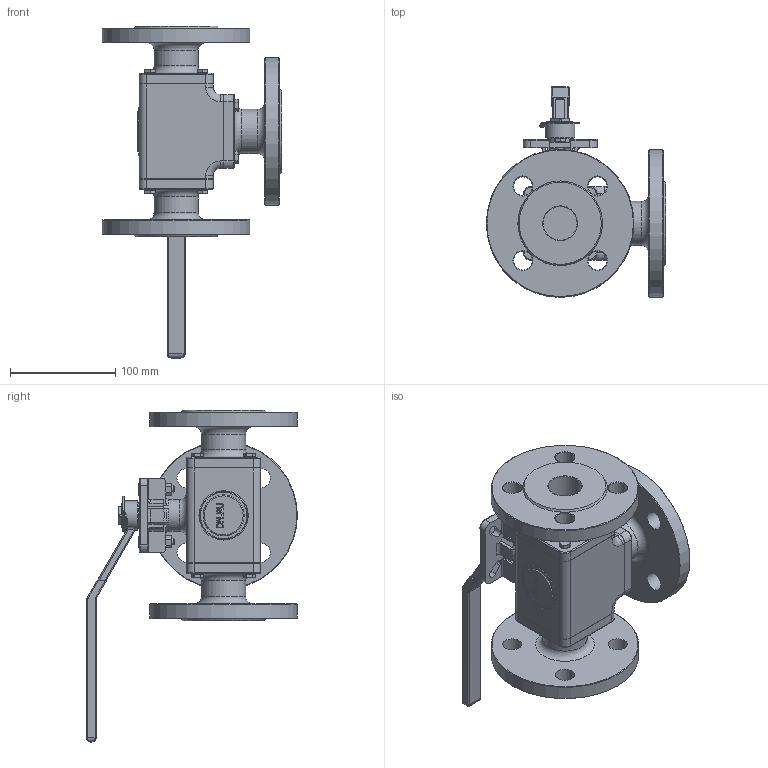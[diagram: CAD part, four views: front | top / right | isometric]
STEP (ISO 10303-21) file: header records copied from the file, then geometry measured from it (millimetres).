
FILE_DESCRIPTION(('STEP AP242'), '1');
FILE_NAME('BV3232P(4pc)-FP-3WL-F-ISO-H Êðàí øàðîâîé DN.ru Äó32 Ðó16', '', ('UNSPECIFIED'), ('UNSPECIFIED'), 'C3D Converter', 'C3D Toolkit', '');
FILE_SCHEMA(('AP242_MANAGED_MODEL_BASED_3D_ENGINEERING_MIM_LF { 1 0 10303 442 1 1 4 }'));
Length unit declared in the file: millimetre
Products named in the file (1): BV3232P(4pc)-FP-3WL-F-ISO-H
Bounding box: 170 x 200 x 315 mm (x, y, z)
Volume: 1390257.6 mm3; surface area: 238913.7 mm2
Topology: 1 solids, 14 shells, 929 faces, 2252 edges, 1400 vertices
Faces by surface type: plane 474, cylinder 215, cone 134, bspline 64, torus 42
Full cylindrical faces by diameter (mm): 1.119 x2, 2 x1, 6 x28, 7 x12, 10 x14, 18 x12, 25 x1, 28 x1, 30 x4, 32 x3, 42 x3, 140 x3
Entity records: 44800 total; most frequent: CARTESIAN_POINT 19407, ORIENTED_EDGE 4250, DIRECTION 4135, EDGE_CURVE 2125, AXIS2_PLACEMENT_3D 1554, VERTEX_POINT 1400, EDGE_LOOP 1197, LINE 1027
